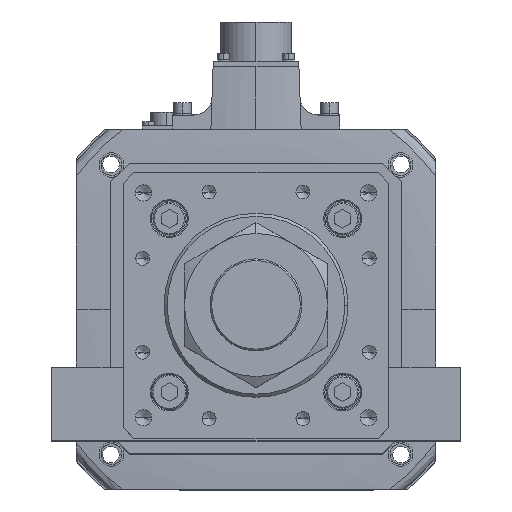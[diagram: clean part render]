
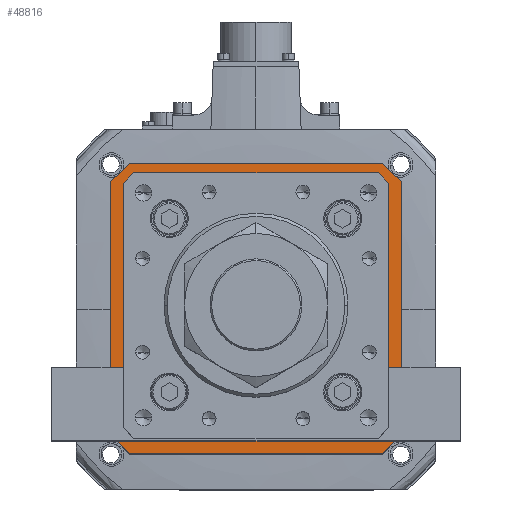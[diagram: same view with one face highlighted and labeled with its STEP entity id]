
A CAD part, top view. The second image highlights one B-rep face of the part: STEP entity #48816.
In plain terms, the highlighted planar face has unit normal (0, 0, 1) as drawn and (0, 0, -1) by its records, which use the part's own axes.
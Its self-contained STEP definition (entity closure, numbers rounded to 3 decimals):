
#255 = LINE ( 'NONE', #48447, #23793 ) ;
#620 = LINE ( 'NONE', #19613, #39361 ) ;
#621 = EDGE_CURVE ( 'NONE', #6209, #25016, #12235, .T. ) ;
#1038 = LINE ( 'NONE', #17967, #11417 ) ;
#1093 = CARTESIAN_POINT ( 'NONE',  ( 62., 71., 60. ) ) ;
#1226 = VECTOR ( 'NONE', #22031, 1000. ) ;
#1681 = VECTOR ( 'NONE', #33771, 1000. ) ;
#1735 = VERTEX_POINT ( 'NONE', #17450 ) ;
#2268 = VERTEX_POINT ( 'NONE', #1093 ) ;
#3153 = DIRECTION ( 'NONE',  ( 0.707, 0.707, 0. ) ) ;
#4056 = CARTESIAN_POINT ( 'NONE',  ( 63., 59., 60. ) ) ;
#4527 = LINE ( 'NONE', #9213, #5891 ) ;
#4562 = CARTESIAN_POINT ( 'NONE',  ( -60.896, -60.896, 60. ) ) ;
#4699 = VERTEX_POINT ( 'NONE', #12383 ) ;
#4843 = VERTEX_POINT ( 'NONE', #26509 ) ;
#5328 = VERTEX_POINT ( 'NONE', #31366 ) ;
#5386 = EDGE_CURVE ( 'NONE', #5328, #29250, #28103, .T. ) ;
#5533 = VERTEX_POINT ( 'NONE', #41408 ) ;
#5728 = PLANE ( 'NONE',  #51142 ) ;
#5891 = VECTOR ( 'NONE', #9787, 1000. ) ;
#6190 = VERTEX_POINT ( 'NONE', #46554 ) ;
#6209 = VERTEX_POINT ( 'NONE', #30283 ) ;
#6351 = CARTESIAN_POINT ( 'NONE',  ( 71., 62., 60. ) ) ;
#6689 = EDGE_CURVE ( 'NONE', #42155, #41192, #26672, .T. ) ;
#7170 = VECTOR ( 'NONE', #3153, 1000. ) ;
#7651 = CARTESIAN_POINT ( 'NONE',  ( 59., -63., 60. ) ) ;
#8812 = LINE ( 'NONE', #12737, #1226 ) ;
#9204 = DIRECTION ( 'NONE',  ( -1., 0., 0. ) ) ;
#9213 = CARTESIAN_POINT ( 'NONE',  ( -63., -59., 60. ) ) ;
#9787 = DIRECTION ( 'NONE',  ( 0., -1., 0. ) ) ;
#10008 = CARTESIAN_POINT ( 'NONE',  ( 71., 71., 60. ) ) ;
#10752 = VERTEX_POINT ( 'NONE', #6351 ) ;
#10956 = EDGE_CURVE ( 'NONE', #4699, #5533, #8812, .T. ) ;
#11417 = VECTOR ( 'NONE', #9204, 1000. ) ;
#11484 = DIRECTION ( 'NONE',  ( 0.707, -0.707, 0. ) ) ;
#12235 = LINE ( 'NONE', #48692, #30203 ) ;
#12383 = CARTESIAN_POINT ( 'NONE',  ( -71., 62., 60. ) ) ;
#12737 = CARTESIAN_POINT ( 'NONE',  ( -71., 62., 60. ) ) ;
#12786 = DIRECTION ( 'NONE',  ( 0., 1., 0. ) ) ;
#13845 = EDGE_CURVE ( 'NONE', #6190, #1735, #25827, .T. ) ;
#16530 = VECTOR ( 'NONE', #45812, 1000. ) ;
#17005 = EDGE_CURVE ( 'NONE', #29250, #42155, #620, .T. ) ;
#17439 = EDGE_CURVE ( 'NONE', #4843, #31753, #40025, .T. ) ;
#17450 = CARTESIAN_POINT ( 'NONE',  ( 58.793, -63., 60. ) ) ;
#17967 = CARTESIAN_POINT ( 'NONE',  ( -71., 71., 60. ) ) ;
#19508 = CARTESIAN_POINT ( 'NONE',  ( 0., 0., 60. ) ) ;
#19613 = CARTESIAN_POINT ( 'NONE',  ( -59., 63., 60. ) ) ;
#19994 = ORIENTED_EDGE ( 'NONE', *, *, #17005, .T. ) ;
#20060 = VECTOR ( 'NONE', #12786, 1000. ) ;
#20490 = CARTESIAN_POINT ( 'NONE',  ( -60.896, 60.896, 60. ) ) ;
#20595 = EDGE_CURVE ( 'NONE', #6209, #31753, #31108, .T. ) ;
#20821 = CARTESIAN_POINT ( 'NONE',  ( 62., -71., 60. ) ) ;
#21077 = EDGE_CURVE ( 'NONE', #2268, #10752, #33133, .T. ) ;
#22031 = DIRECTION ( 'NONE',  ( 0.707, 0.707, 0. ) ) ;
#22819 = VECTOR ( 'NONE', #51761, 1000. ) ;
#23766 = ORIENTED_EDGE ( 'NONE', *, *, #21077, .T. ) ;
#23793 = VECTOR ( 'NONE', #31058, 1000. ) ;
#23865 = CARTESIAN_POINT ( 'NONE',  ( -58.793, 63., 60. ) ) ;
#25016 = VERTEX_POINT ( 'NONE', #36041 ) ;
#25458 = ORIENTED_EDGE ( 'NONE', *, *, #32565, .T. ) ;
#25827 = LINE ( 'NONE', #7651, #56262 ) ;
#25833 = ORIENTED_EDGE ( 'NONE', *, *, #10956, .T. ) ;
#26509 = CARTESIAN_POINT ( 'NONE',  ( 71., -62., 60. ) ) ;
#26672 = LINE ( 'NONE', #20490, #1681 ) ;
#27265 = LINE ( 'NONE', #10008, #30009 ) ;
#28103 = LINE ( 'NONE', #40664, #41246 ) ;
#28195 = DIRECTION ( 'NONE',  ( 0., 0., 1. ) ) ;
#28489 = ORIENTED_EDGE ( 'NONE', *, *, #29479, .F. ) ;
#28652 = ORIENTED_EDGE ( 'NONE', *, *, #39387, .F. ) ;
#29244 = EDGE_LOOP ( 'NONE', ( #36377, #37800, #41816, #38108, #38659, #25458, #43460, #19994 ) ) ;
#29250 = VERTEX_POINT ( 'NONE', #42922 ) ;
#29270 = ORIENTED_EDGE ( 'NONE', *, *, #20595, .F. ) ;
#29479 = EDGE_CURVE ( 'NONE', #4843, #10752, #27265, .T. ) ;
#30009 = VECTOR ( 'NONE', #32069, 1000. ) ;
#30203 = VECTOR ( 'NONE', #31684, 1000. ) ;
#30283 = CARTESIAN_POINT ( 'NONE',  ( -62., -71., 60. ) ) ;
#31051 = DIRECTION ( 'NONE',  ( 0.707, -0.707, 0. ) ) ;
#31058 = DIRECTION ( 'NONE',  ( 0., -1., 0. ) ) ;
#31108 = LINE ( 'NONE', #38421, #22819 ) ;
#31366 = CARTESIAN_POINT ( 'NONE',  ( 63., 58.793, 60. ) ) ;
#31493 = ORIENTED_EDGE ( 'NONE', *, *, #54162, .F. ) ;
#31684 = DIRECTION ( 'NONE',  ( -0.707, 0.707, 0. ) ) ;
#31753 = VERTEX_POINT ( 'NONE', #20821 ) ;
#31775 = VECTOR ( 'NONE', #11484, 1000. ) ;
#31792 = LINE ( 'NONE', #4056, #20060 ) ;
#32069 = DIRECTION ( 'NONE',  ( 0., 1., 0. ) ) ;
#32565 = EDGE_CURVE ( 'NONE', #36178, #5328, #31792, .T. ) ;
#33133 = LINE ( 'NONE', #55933, #31775 ) ;
#33677 = LINE ( 'NONE', #4562, #51026 ) ;
#33771 = DIRECTION ( 'NONE',  ( -0.707, -0.707, 0. ) ) ;
#34336 = CARTESIAN_POINT ( 'NONE',  ( 63., -58.793, 60. ) ) ;
#36041 = CARTESIAN_POINT ( 'NONE',  ( -71., -62., 60. ) ) ;
#36085 = CARTESIAN_POINT ( 'NONE',  ( -63., -58.793, 60. ) ) ;
#36178 = VERTEX_POINT ( 'NONE', #34336 ) ;
#36377 = ORIENTED_EDGE ( 'NONE', *, *, #6689, .T. ) ;
#36549 = ORIENTED_EDGE ( 'NONE', *, *, #17439, .T. ) ;
#37800 = ORIENTED_EDGE ( 'NONE', *, *, #44794, .T. ) ;
#38108 = ORIENTED_EDGE ( 'NONE', *, *, #13845, .T. ) ;
#38269 = CARTESIAN_POINT ( 'NONE',  ( -63., 58.793, 60. ) ) ;
#38421 = CARTESIAN_POINT ( 'NONE',  ( -71., -71., 60. ) ) ;
#38659 = ORIENTED_EDGE ( 'NONE', *, *, #45578, .T. ) ;
#38756 = ORIENTED_EDGE ( 'NONE', *, *, #621, .T. ) ;
#39361 = VECTOR ( 'NONE', #41813, 1000. ) ;
#39387 = EDGE_CURVE ( 'NONE', #2268, #5533, #1038, .T. ) ;
#40025 = LINE ( 'NONE', #41198, #16530 ) ;
#40664 = CARTESIAN_POINT ( 'NONE',  ( 60.896, 60.896, 60. ) ) ;
#41118 = LINE ( 'NONE', #42990, #7170 ) ;
#41192 = VERTEX_POINT ( 'NONE', #38269 ) ;
#41198 = CARTESIAN_POINT ( 'NONE',  ( 71., -62., 60. ) ) ;
#41246 = VECTOR ( 'NONE', #53802, 1000. ) ;
#41408 = CARTESIAN_POINT ( 'NONE',  ( -62., 71., 60. ) ) ;
#41706 = DIRECTION ( 'NONE',  ( 1., 0., 0. ) ) ;
#41813 = DIRECTION ( 'NONE',  ( -1., 0., 0. ) ) ;
#41816 = ORIENTED_EDGE ( 'NONE', *, *, #51776, .T. ) ;
#42155 = VERTEX_POINT ( 'NONE', #23865 ) ;
#42922 = CARTESIAN_POINT ( 'NONE',  ( 58.793, 63., 60. ) ) ;
#42990 = CARTESIAN_POINT ( 'NONE',  ( 60.896, -60.896, 60. ) ) ;
#43460 = ORIENTED_EDGE ( 'NONE', *, *, #5386, .T. ) ;
#44794 = EDGE_CURVE ( 'NONE', #41192, #48813, #4527, .T. ) ;
#45578 = EDGE_CURVE ( 'NONE', #1735, #36178, #41118, .T. ) ;
#45812 = DIRECTION ( 'NONE',  ( -0.707, -0.707, 0. ) ) ;
#46554 = CARTESIAN_POINT ( 'NONE',  ( -58.793, -63., 60. ) ) ;
#47032 = FACE_OUTER_BOUND ( 'NONE', #47929, .T. ) ;
#47880 = DIRECTION ( 'NONE',  ( 1., 0., 0. ) ) ;
#47929 = EDGE_LOOP ( 'NONE', ( #29270, #38756, #31493, #25833, #28652, #23766, #28489, #36549 ) ) ;
#48447 = CARTESIAN_POINT ( 'NONE',  ( -71., 71., 60. ) ) ;
#48692 = CARTESIAN_POINT ( 'NONE',  ( -62., -71., 60. ) ) ;
#48813 = VERTEX_POINT ( 'NONE', #36085 ) ;
#48816 = ADVANCED_FACE ( 'NONE', ( #53257, #47032 ), #5728, .F. ) ;
#51026 = VECTOR ( 'NONE', #31051, 1000. ) ;
#51142 = AXIS2_PLACEMENT_3D ( 'NONE', #19508, #28195, #41706 ) ;
#51761 = DIRECTION ( 'NONE',  ( 1., 0., 0. ) ) ;
#51776 = EDGE_CURVE ( 'NONE', #48813, #6190, #33677, .T. ) ;
#53257 = FACE_BOUND ( 'NONE', #29244, .T. ) ;
#53802 = DIRECTION ( 'NONE',  ( -0.707, 0.707, 0. ) ) ;
#54162 = EDGE_CURVE ( 'NONE', #4699, #25016, #255, .T. ) ;
#55933 = CARTESIAN_POINT ( 'NONE',  ( 62., 71., 60. ) ) ;
#56262 = VECTOR ( 'NONE', #47880, 1000. ) ;
